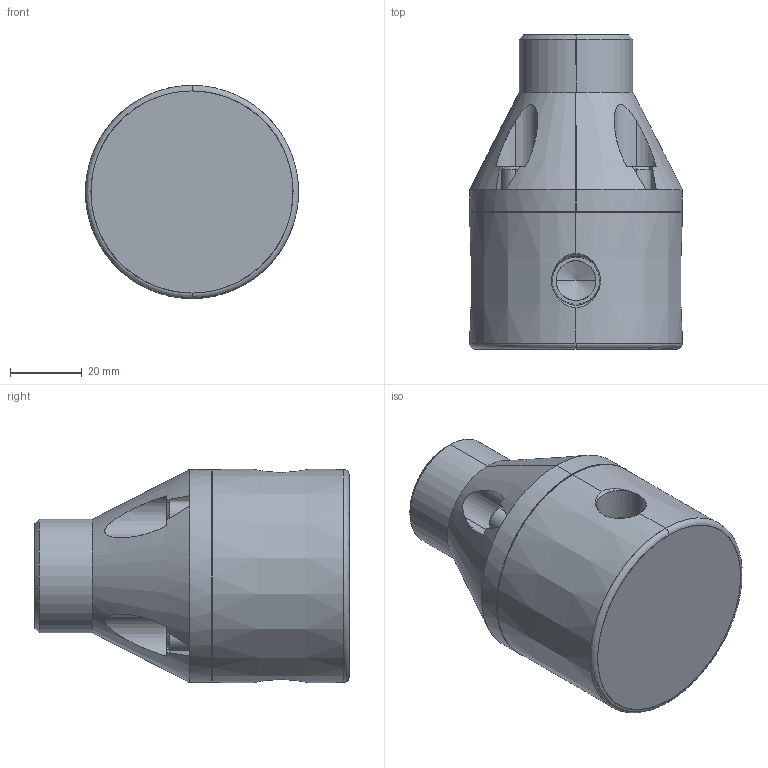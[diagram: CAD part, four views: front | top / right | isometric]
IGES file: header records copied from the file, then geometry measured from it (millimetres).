
Start section: SolidWorks IGES file using analytic representation for surfaces
Global section: file name: F:\Griffco-Valve\Griffco_current-projects\GV_web-files_2015\M Series\MBP0250-NPT.IGS; native system: SolidWorks 2008; preprocessor: SolidWorks 2008; author: Dan; date: 150407.210341; units: inch
Bounding box: 59.44 x 87.63 x 59.44 mm (x, y, z)
Surface area: 23895.3 mm2 (no closed solid volume)
Topology: 0 solids, 0 shells, 130 faces, 1904 edges, 1900 vertices
Faces by surface type: bspline 72, revolution 58
